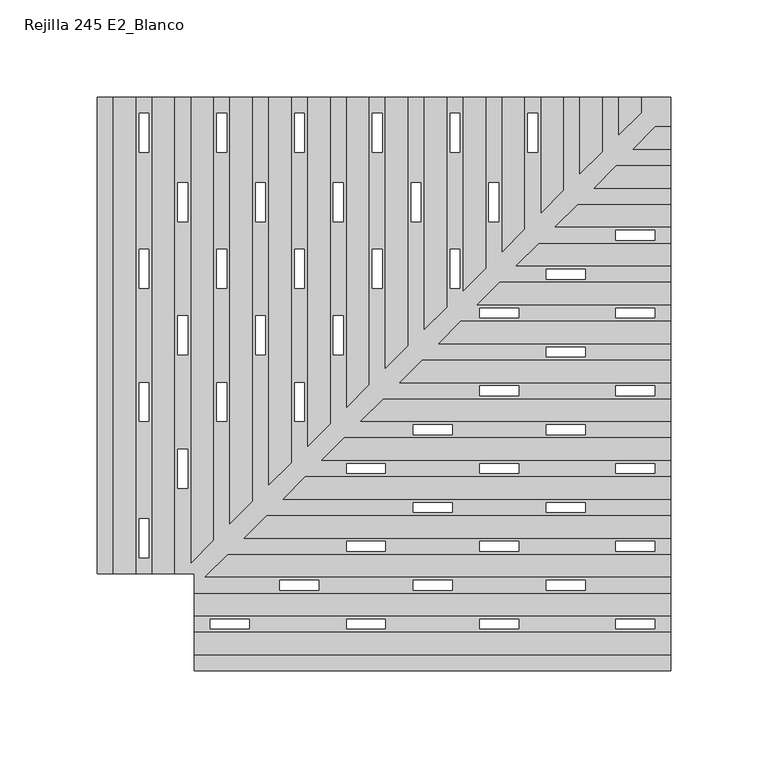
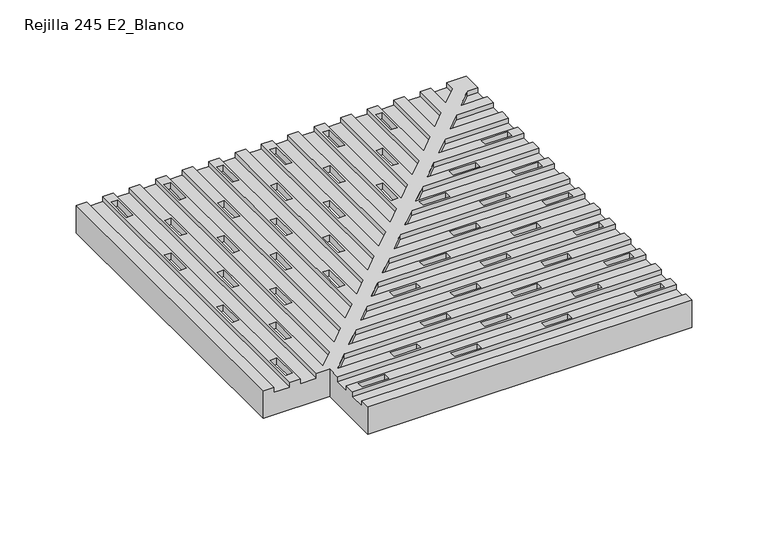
"""IFC4 building model written with IfcOpenShell, lengths in millimetres: proxy geometry, ROSA GRES_245 E2 : Rejilla 245 E2_Blanco."""

from ifc_helpers import new_model, si_unit, origin, place, context, project, spatial, faceted_brep, source, transform, mapped, element, save


def rejilla_245_e2_blanco_63b6c073(model_context):
    return source(origin(), model_context, "Body", "Brep", [
        faceted_brep([(0.0, -50.0, 228.35), (245.0, -50.0, 228.35), (245.0, -42.0, 228.35), (0.0, -42.0, 228.35), (-50.0, 245.0, 228.35), (-50.0, 0.0, 228.35), (-42.0, 0.0, 228.35), (-42.0, 245.0, 228.35), (-10.0, 0.0, 228.35), (0.0, 0.0, 228.35), (0.0, -10.0, 228.35), (245.0, -10.0, 228.35), (245.0, -2.0, 228.35), (5.0710678, -2.0, 228.35), (17.0710678, 10.0, 228.35), (245.0, 10.0, 228.35), (245.0, 18.0, 228.35), (25.0710678, 18.0, 228.35), (37.0710678, 30.0, 228.35), (245.0, 30.0, 228.35), (245.0, 38.0, 228.35), (45.0710678, 38.0, 228.35), (57.0710678, 50.0, 228.35), (245.0, 50.0, 228.35), (245.0, 58.0, 228.35), (65.0710678, 58.0, 228.35), (77.0710678, 70.0, 228.35), (245.0, 70.0, 228.35), (245.0, 78.0, 228.35), (85.0710678, 78.0, 228.35), (97.0710678, 90.0, 228.35), (245.0, 90.0, 228.35), (245.0, 98.0, 228.35), (105.0710678, 98.0, 228.35), (117.0710678, 110.0, 228.35), (245.0, 110.0, 228.35), (245.0, 118.0, 228.35), (125.0710678, 118.0, 228.35), (137.0710678, 130.0, 228.35), (245.0, 130.0, 228.35), (245.0, 138.0, 228.35), (145.0710678, 138.0, 228.35), (157.0710678, 150.0, 228.35), (245.0, 150.0, 228.35), (245.0, 158.0, 228.35), (165.0710678, 158.0, 228.35), (177.0710678, 170.0, 228.35), (245.0, 170.0, 228.35), (245.0, 178.0, 228.35), (185.0710678, 178.0, 228.35), (197.0710678, 190.0, 228.35), (245.0, 190.0, 228.35), (245.0, 198.0, 228.35), (205.0710678, 198.0, 228.35), (217.0710678, 210.0, 228.35), (245.0, 210.0, 228.35), (245.0, 218.0, 228.35), (225.0710678, 218.0, 228.35), (237.0710678, 230.0, 228.35), (245.0, 230.0, 228.35), (245.0, 245.0, 228.35), (230.0, 245.0, 228.35), (230.0, 237.0710678, 228.35), (218.0, 225.0710678, 228.35), (218.0, 245.0, 228.35), (210.0, 245.0, 228.35), (210.0, 217.0710678, 228.35), (198.0, 205.0710678, 228.35), (198.0, 245.0, 228.35), (190.0, 245.0, 228.35), (190.0, 197.0710678, 228.35), (178.0, 185.0710678, 228.35), (178.0, 245.0, 228.35), (170.0, 245.0, 228.35), (170.0, 177.0710678, 228.35), (158.0, 165.0710678, 228.35), (158.0, 245.0, 228.35), (150.0, 245.0, 228.35), (150.0, 157.0710678, 228.35), (138.0, 145.0710678, 228.35), (138.0, 245.0, 228.35), (130.0, 245.0, 228.35), (130.0, 137.0710678, 228.35), (118.0, 125.0710678, 228.35), (118.0, 245.0, 228.35), (110.0, 245.0, 228.35), (110.0, 117.0710678, 228.35), (98.0, 105.0710678, 228.35), (98.0, 245.0, 228.35), (90.0, 245.0, 228.35), (90.0, 97.0710678, 228.35), (78.0, 85.0710678, 228.35), (78.0, 245.0, 228.35), (70.0, 245.0, 228.35), (70.0, 77.0710678, 228.35), (58.0, 65.0710678, 228.35), (58.0, 245.0, 228.35), (50.0, 245.0, 228.35), (50.0, 57.0710678, 228.35), (38.0, 45.0710678, 228.35), (38.0, 245.0, 228.35), (30.0, 245.0, 228.35), (30.0, 37.0710678, 228.35), (18.0, 25.0710678, 228.35), (18.0, 245.0, 228.35), (10.0, 245.0, 228.35), (10.0, 17.0710678, 228.35), (-2.0, 5.0710678, 228.35), (-2.0, 245.0, 228.35), (-10.0, 245.0, 228.35), (216.7630657, 11.5, 228.35), (216.7630657, 16.5, 228.35), (236.7630657, 16.5, 228.35), (236.7630657, 11.5, 228.35), (216.7630657, 51.5, 228.35), (216.7630657, 56.5, 228.35), (236.7630657, 56.5, 228.35), (236.7630657, 51.5, 228.35), (216.7630657, 91.5, 228.35), (216.7630657, 96.5, 228.35), (236.7630657, 96.5, 228.35), (236.7630657, 91.5, 228.35), (216.7630657, 131.5, 228.35), (216.7630657, 136.5, 228.35), (236.7630657, 136.5, 228.35), (236.7630657, 131.5, 228.35), (216.7630657, 171.5, 228.35), (216.7630657, 176.5, 228.35), (236.7630657, 176.5, 228.35), (236.7630657, 171.5, 228.35), (181.052991, -8.5, 228.35), (181.052991, -3.5, 228.35), (201.052991, -3.5, 228.35), (201.052991, -8.5, 228.35), (181.052991, 31.5, 228.35), (181.052991, 36.5, 228.35), (201.052991, 36.5, 228.35), (201.052991, 31.5, 228.35), (181.052991, 71.5, 228.35), (181.052991, 76.5, 228.35), (201.052991, 76.5, 228.35), (201.052991, 71.5, 228.35), (181.052991, 111.5, 228.35), (181.052991, 116.5, 228.35), (201.052991, 116.5, 228.35), (201.052991, 111.5, 228.35), (181.052991, 151.5, 228.35), (181.052991, 156.5, 228.35), (201.052991, 156.5, 228.35), (201.052991, 151.5, 228.35), (146.7764955, 11.5, 228.35), (146.7764955, 16.5, 228.35), (166.7764955, 16.5, 228.35), (166.7764955, 11.5, 228.35), (146.7764955, 51.5, 228.35), (146.7764955, 56.5, 228.35), (166.7764955, 56.5, 228.35), (166.7764955, 51.5, 228.35), (146.7764955, 91.5, 228.35), (146.7764955, 96.5, 228.35), (166.7764955, 96.5, 228.35), (166.7764955, 91.5, 228.35), (146.7764955, 131.5, 228.35), (146.7764955, 136.5, 228.35), (166.7764955, 136.5, 228.35), (166.7764955, 131.5, 228.35), (112.5, -8.5, 228.35), (112.5, -3.5, 228.35), (132.5, -3.5, 228.35), (132.5, -8.5, 228.35), (112.5, 31.5, 228.35), (112.5, 36.5, 228.35), (132.5, 36.5, 228.35), (132.5, 31.5, 228.35), (112.5, 71.5, 228.35), (112.5, 76.5, 228.35), (132.5, 76.5, 228.35), (132.5, 71.5, 228.35), (78.2235045, 11.5, 228.35), (78.2235045, 16.5, 228.35), (98.2235045, 16.5, 228.35), (98.2235045, 11.5, 228.35), (78.2235045, 51.5, 228.35), (78.2235045, 56.5, 228.35), (98.2235045, 56.5, 228.35), (98.2235045, 51.5, 228.35), (43.947009, -8.5, 228.35), (43.947009, -3.5, 228.35), (63.947009, -3.5, 228.35), (63.947009, -8.5, 228.35), (16.5, 236.7630657, 228.35), (16.5, 216.7630657, 228.35), (11.5, 216.7630657, 228.35), (11.5, 236.7630657, 228.35), (56.5, 236.7630657, 228.35), (56.5, 216.7630657, 228.35), (51.5, 216.7630657, 228.35), (51.5, 236.7630657, 228.35), (96.5, 236.7630657, 228.35), (96.5, 216.7630657, 228.35), (91.5, 216.7630657, 228.35), (91.5, 236.7630657, 228.35), (136.5, 236.7630657, 228.35), (136.5, 216.7630657, 228.35), (131.5, 216.7630657, 228.35), (131.5, 236.7630657, 228.35), (176.5, 236.7630657, 228.35), (176.5, 216.7630657, 228.35), (171.5, 216.7630657, 228.35), (171.5, 236.7630657, 228.35), (-3.5, 201.052991, 228.35), (-3.5, 181.052991, 228.35), (-8.5, 181.052991, 228.35), (-8.5, 201.052991, 228.35), (36.5, 201.052991, 228.35), (36.5, 181.052991, 228.35), (31.5, 181.052991, 228.35), (31.5, 201.052991, 228.35), (76.5, 201.052991, 228.35), (76.5, 181.052991, 228.35), (71.5, 181.052991, 228.35), (71.5, 201.052991, 228.35), (116.5, 201.052991, 228.35), (116.5, 181.052991, 228.35), (111.5, 181.052991, 228.35), (111.5, 201.052991, 228.35), (156.5, 201.052991, 228.35), (156.5, 181.052991, 228.35), (151.5, 181.052991, 228.35), (151.5, 201.052991, 228.35), (16.5, 166.7764955, 228.35), (16.5, 146.7764955, 228.35), (11.5, 146.7764955, 228.35), (11.5, 166.7764955, 228.35), (56.5, 166.7764955, 228.35), (56.5, 146.7764955, 228.35), (51.5, 146.7764955, 228.35), (51.5, 166.7764955, 228.35), (96.5, 166.7764955, 228.35), (96.5, 146.7764955, 228.35), (91.5, 146.7764955, 228.35), (91.5, 166.7764955, 228.35), (136.5, 166.7764955, 228.35), (136.5, 146.7764955, 228.35), (131.5, 146.7764955, 228.35), (131.5, 166.7764955, 228.35), (-3.5, 132.5, 228.35), (-3.5, 112.5, 228.35), (-8.5, 112.5, 228.35), (-8.5, 132.5, 228.35), (36.5, 132.5, 228.35), (36.5, 112.5, 228.35), (31.5, 112.5, 228.35), (31.5, 132.5, 228.35), (76.5, 132.5, 228.35), (76.5, 112.5, 228.35), (71.5, 112.5, 228.35), (71.5, 132.5, 228.35), (16.5, 98.2235045, 228.35), (16.5, 78.2235045, 228.35), (11.5, 78.2235045, 228.35), (11.5, 98.2235045, 228.35), (56.5, 98.2235045, 228.35), (56.5, 78.2235045, 228.35), (51.5, 78.2235045, 228.35), (51.5, 98.2235045, 228.35), (-3.5, 63.947009, 228.35), (-3.5, 43.947009, 228.35), (-8.5, 43.947009, 228.35), (-8.5, 63.947009, 228.35), (-30.0, 0.0, 228.35), (-22.0, 0.0, 228.35), (-22.0, 245.0, 228.35), (-30.0, 245.0, 228.35), (-23.5, 236.7630657, 228.35), (-23.5, 216.7630657, 228.35), (-28.5, 216.7630657, 228.35), (-28.5, 236.7630657, 228.35), (-23.5, 166.7764955, 228.35), (-23.5, 146.7764955, 228.35), (-28.5, 146.7764955, 228.35), (-28.5, 166.7764955, 228.35), (-23.5, 98.2235045, 228.35), (-23.5, 78.2235045, 228.35), (-28.5, 78.2235045, 228.35), (-28.5, 98.2235045, 228.35), (-23.5, 28.2369343, 228.35), (-23.5, 8.2369343, 228.35), (-28.5, 8.2369343, 228.35), (-28.5, 28.2369343, 228.35), (0.0, -22.0, 228.35), (0.0, -30.0, 228.35), (245.0, -30.0, 228.35), (245.0, -22.0, 228.35), (216.7630657, -28.5, 228.35), (216.7630657, -23.5, 228.35), (236.7630657, -23.5, 228.35), (236.7630657, -28.5, 228.35), (146.7764955, -28.5, 228.35), (146.7764955, -23.5, 228.35), (166.7764955, -23.5, 228.35), (166.7764955, -28.5, 228.35), (78.2235045, -28.5, 228.35), (78.2235045, -23.5, 228.35), (98.2235045, -23.5, 228.35), (98.2235045, -28.5, 228.35), (8.2369343, -28.5, 228.35), (8.2369343, -23.5, 228.35), (28.2369343, -23.5, 228.35), (28.2369343, -28.5, 228.35), (-50.0, 0.0, 206.35), (-50.0, 245.0, 206.35), (245.0, 245.0, 206.35), (245.0, -50.0, 206.35), (0.0, -50.0, 206.35), (0.0, 0.0, 206.35), (-46.0, 241.0, 206.35), (-46.0, 4.0, 206.35), (4.0, 4.0, 206.35), (4.0, -46.0, 206.35), (241.0, -46.0, 206.35), (241.0, 241.0, 206.35), (-10.0, 0.0, 224.35), (-22.0, 0.0, 224.35), (-30.0, 0.0, 224.35), (-42.0, 0.0, 224.35), (0.0, -42.0, 224.35), (0.0, -30.0, 224.35), (0.0, -22.0, 224.35), (0.0, -10.0, 224.35), (245.0, 230.0, 224.35), (245.0, 218.0, 224.35), (245.0, 210.0, 224.35), (245.0, 198.0, 224.35), (245.0, 190.0, 224.35), (245.0, 178.0, 224.35), (245.0, 170.0, 224.35), (245.0, 158.0, 224.35), (245.0, 150.0, 224.35), (245.0, 138.0, 224.35), (245.0, 130.0, 224.35), (245.0, 118.0, 224.35), (245.0, 110.0, 224.35), (245.0, 98.0, 224.35), (245.0, 90.0, 224.35), (245.0, 78.0, 224.35), (245.0, 70.0, 224.35), (245.0, 58.0, 224.35), (245.0, 50.0, 224.35), (245.0, 38.0, 224.35), (245.0, 30.0, 224.35), (245.0, 18.0, 224.35), (245.0, 10.0, 224.35), (245.0, -2.0, 224.35), (245.0, -10.0, 224.35), (245.0, -22.0, 224.35), (245.0, -30.0, 224.35), (245.0, -42.0, 224.35), (-42.0, 245.0, 224.35), (-30.0, 245.0, 224.35), (-22.0, 245.0, 224.35), (-10.0, 245.0, 224.35), (-2.0, 245.0, 224.35), (10.0, 245.0, 224.35), (18.0, 245.0, 224.35), (30.0, 245.0, 224.35), (38.0, 245.0, 224.35), (50.0, 245.0, 224.35), (58.0, 245.0, 224.35), (70.0, 245.0, 224.35), (78.0, 245.0, 224.35), (90.0, 245.0, 224.35), (98.0, 245.0, 224.35), (110.0, 245.0, 224.35), (118.0, 245.0, 224.35), (130.0, 245.0, 224.35), (138.0, 245.0, 224.35), (150.0, 245.0, 224.35), (158.0, 245.0, 224.35), (170.0, 245.0, 224.35), (178.0, 245.0, 224.35), (190.0, 245.0, 224.35), (198.0, 245.0, 224.35), (210.0, 245.0, 224.35), (218.0, 245.0, 224.35), (230.0, 245.0, 224.35), (237.0710678, 230.0, 224.35), (225.0710678, 218.0, 224.35), (218.0, 225.0710678, 224.35), (230.0, 237.0710678, 224.35), (198.0, 205.0710678, 224.35), (210.0, 217.0710678, 224.35), (217.0710678, 210.0, 224.35), (205.0710678, 198.0, 224.35), (178.0, 185.0710678, 224.35), (190.0, 197.0710678, 224.35), (158.0, 165.0710678, 224.35), (170.0, 177.0710678, 224.35), (138.0, 145.0710678, 224.35), (150.0, 157.0710678, 224.35), (118.0, 125.0710678, 224.35), (130.0, 137.0710678, 224.35), (197.0710678, 190.0, 224.35), (185.0710678, 178.0, 224.35), (177.0710678, 170.0, 224.35), (165.0710678, 158.0, 224.35), (157.0710678, 150.0, 224.35), (145.0710678, 138.0, 224.35), (125.0710678, 118.0, 224.35), (137.0710678, 130.0, 224.35), (105.0710678, 98.0, 224.35), (117.0710678, 110.0, 224.35), (98.0, 105.0710678, 224.35), (110.0, 117.0710678, 224.35), (78.0, 85.0710678, 224.35), (90.0, 97.0710678, 224.35), (85.0710678, 78.0, 224.35), (97.0710678, 90.0, 224.35), (58.0, 65.0710678, 224.35), (70.0, 77.0710678, 224.35), (65.0710678, 58.0, 224.35), (77.0710678, 70.0, 224.35), (38.0, 45.0710678, 224.35), (50.0, 57.0710678, 224.35), (45.0710678, 38.0, 224.35), (57.0710678, 50.0, 224.35), (25.0710678, 18.0, 224.35), (37.0710678, 30.0, 224.35), (5.0710678, -2.0, 224.35), (17.0710678, 10.0, 224.35), (18.0, 25.0710678, 224.35), (30.0, 37.0710678, 224.35), (-2.0, 5.0710678, 224.35), (10.0, 17.0710678, 224.35), (216.7630657, -28.5, 223.35), (216.7630657, -23.5, 223.35), (236.7630657, -28.5, 223.35), (236.7630657, -23.5, 223.35), (216.7630657, 11.5, 223.35), (216.7630657, 16.5, 223.35), (236.7630657, 11.5, 223.35), (236.7630657, 16.5, 223.35), (216.7630657, 51.5, 223.35), (216.7630657, 56.5, 223.35), (236.7630657, 51.5, 223.35), (236.7630657, 56.5, 223.35), (216.7630657, 91.5, 223.35), (216.7630657, 96.5, 223.35), (236.7630657, 91.5, 223.35), (236.7630657, 96.5, 223.35), (216.7630657, 131.5, 223.35), (216.7630657, 136.5, 223.35), (236.7630657, 131.5, 223.35), (236.7630657, 136.5, 223.35), (216.7630657, 171.5, 223.35), (216.7630657, 176.5, 223.35), (236.7630657, 171.5, 223.35), (236.7630657, 176.5, 223.35), (181.052991, -8.5, 223.35), (181.052991, -3.5, 223.35), (201.052991, -8.5, 223.35), (201.052991, -3.5, 223.35), (181.052991, 31.5, 223.35), (181.052991, 36.5, 223.35), (201.052991, 31.5, 223.35), (201.052991, 36.5, 223.35), (181.052991, 71.5, 223.35), (181.052991, 76.5, 223.35), (201.052991, 71.5, 223.35), (201.052991, 76.5, 223.35), (181.052991, 111.5, 223.35), (181.052991, 116.5, 223.35), (201.052991, 111.5, 223.35), (201.052991, 116.5, 223.35), (181.052991, 151.5, 223.35), (181.052991, 156.5, 223.35), (201.052991, 151.5, 223.35), (201.052991, 156.5, 223.35), (146.7764955, -28.5, 223.35), (146.7764955, -23.5, 223.35), (166.7764955, -28.5, 223.35), (166.7764955, -23.5, 223.35), (146.7764955, 11.5, 223.35), (146.7764955, 16.5, 223.35), (166.7764955, 11.5, 223.35), (166.7764955, 16.5, 223.35), (146.7764955, 51.5, 223.35), (146.7764955, 56.5, 223.35), (166.7764955, 51.5, 223.35), (166.7764955, 56.5, 223.35), (146.7764955, 91.5, 223.35), (146.7764955, 96.5, 223.35), (166.7764955, 91.5, 223.35), (166.7764955, 96.5, 223.35), (146.7764955, 131.5, 223.35), (146.7764955, 136.5, 223.35), (166.7764955, 131.5, 223.35), (166.7764955, 136.5, 223.35), (112.5, -8.5, 223.35), (112.5, -3.5, 223.35), (132.5, -8.5, 223.35), (132.5, -3.5, 223.35), (112.5, 31.5, 223.35), (112.5, 36.5, 223.35), (132.5, 31.5, 223.35), (132.5, 36.5, 223.35), (112.5, 71.5, 223.35), (112.5, 76.5, 223.35), (132.5, 71.5, 223.35), (132.5, 76.5, 223.35), (78.2235045, -28.5, 223.35), (78.2235045, -23.5, 223.35), (98.2235045, -28.5, 223.35), (98.2235045, -23.5, 223.35), (78.2235045, 11.5, 223.35), (78.2235045, 16.5, 223.35), (98.2235045, 11.5, 223.35), (98.2235045, 16.5, 223.35), (78.2235045, 51.5, 223.35), (78.2235045, 56.5, 223.35), (98.2235045, 51.5, 223.35), (98.2235045, 56.5, 223.35), (43.947009, -8.5, 223.35), (43.947009, -3.5, 223.35), (63.947009, -8.5, 223.35), (63.947009, -3.5, 223.35), (8.2369343, -28.5, 223.35), (8.2369343, -23.5, 223.35), (28.2369343, -28.5, 223.35), (28.2369343, -23.5, 223.35), (-23.5, 236.7630657, 223.35), (-23.5, 216.7630657, 223.35), (-28.5, 236.7630657, 223.35), (-28.5, 216.7630657, 223.35), (16.5, 236.7630657, 223.35), (16.5, 216.7630657, 223.35), (11.5, 236.7630657, 223.35), (11.5, 216.7630657, 223.35), (56.5, 236.7630657, 223.35), (56.5, 216.7630657, 223.35), (51.5, 236.7630657, 223.35), (51.5, 216.7630657, 223.35), (96.5, 236.7630657, 223.35), (96.5, 216.7630657, 223.35), (91.5, 236.7630657, 223.35), (91.5, 216.7630657, 223.35), (136.5, 236.7630657, 223.35), (136.5, 216.7630657, 223.35), (131.5, 236.7630657, 223.35), (131.5, 216.7630657, 223.35), (176.5, 236.7630657, 223.35), (176.5, 216.7630657, 223.35), (171.5, 236.7630657, 223.35), (171.5, 216.7630657, 223.35), (-3.5, 201.052991, 223.35), (-3.5, 181.052991, 223.35), (-8.5, 201.052991, 223.35), (-8.5, 181.052991, 223.35), (36.5, 201.052991, 223.35), (36.5, 181.052991, 223.35), (31.5, 201.052991, 223.35), (31.5, 181.052991, 223.35), (76.5, 201.052991, 223.35), (76.5, 181.052991, 223.35), (71.5, 201.052991, 223.35), (71.5, 181.052991, 223.35), (116.5, 201.052991, 223.35), (116.5, 181.052991, 223.35), (111.5, 201.052991, 223.35), (111.5, 181.052991, 223.35), (156.5, 201.052991, 223.35), (156.5, 181.052991, 223.35), (151.5, 201.052991, 223.35), (151.5, 181.052991, 223.35), (-23.5, 166.7764955, 223.35), (-23.5, 146.7764955, 223.35), (-28.5, 166.7764955, 223.35), (-28.5, 146.7764955, 223.35), (16.5, 166.7764955, 223.35), (16.5, 146.7764955, 223.35), (11.5, 166.7764955, 223.35), (11.5, 146.7764955, 223.35), (56.5, 166.7764955, 223.35), (56.5, 146.7764955, 223.35), (51.5, 166.7764955, 223.35), (51.5, 146.7764955, 223.35), (96.5, 166.7764955, 223.35), (96.5, 146.7764955, 223.35), (91.5, 166.7764955, 223.35), (91.5, 146.7764955, 223.35), (136.5, 166.7764955, 223.35), (136.5, 146.7764955, 223.35), (131.5, 166.7764955, 223.35), (131.5, 146.7764955, 223.35), (-3.5, 132.5, 223.35), (-3.5, 112.5, 223.35), (-8.5, 132.5, 223.35), (-8.5, 112.5, 223.35), (36.5, 132.5, 223.35), (36.5, 112.5, 223.35), (31.5, 132.5, 223.35), (31.5, 112.5, 223.35), (76.5, 132.5, 223.35), (76.5, 112.5, 223.35), (71.5, 132.5, 223.35), (71.5, 112.5, 223.35), (-23.5, 98.2235045, 223.35), (-23.5, 78.2235045, 223.35), (-28.5, 98.2235045, 223.35), (-28.5, 78.2235045, 223.35), (16.5, 98.2235045, 223.35), (16.5, 78.2235045, 223.35), (11.5, 98.2235045, 223.35), (11.5, 78.2235045, 223.35), (56.5, 98.2235045, 223.35), (56.5, 78.2235045, 223.35), (51.5, 98.2235045, 223.35), (51.5, 78.2235045, 223.35), (-3.5, 63.947009, 223.35), (-3.5, 43.947009, 223.35), (-8.5, 63.947009, 223.35), (-8.5, 43.947009, 223.35), (-23.5, 28.2369343, 223.35), (-23.5, 8.2369343, 223.35), (-28.5, 28.2369343, 223.35), (-28.5, 8.2369343, 223.35), (-46.0, 241.0, 223.35), (241.0, 241.0, 223.35), (241.0, -46.0, 223.35), (4.0, -46.0, 223.35), (4.0, 4.0, 223.35), (-46.0, 4.0, 223.35)], [[[0, 1, 2, 3]], [[4, 5, 6, 7]], [[8, 9, 10, 11, 12, 13, 14, 15, 16, 17, 18, 19, 20, 21, 22, 23, 24, 25, 26, 27, 28, 29, 30, 31, 32, 33, 34, 35, 36, 37, 38, 39, 40, 41, 42, 43, 44, 45, 46, 47, 48, 49, 50, 51, 52, 53, 54, 55, 56, 57, 58, 59, 60, 61, 62, 63, 64, 65, 66, 67, 68, 69, 70, 71, 72, 73, 74, 75, 76, 77, 78, 79, 80, 81, 82, 83, 84, 85, 86, 87, 88, 89, 90, 91, 92, 93, 94, 95, 96, 97, 98, 99, 100, 101, 102, 103, 104, 105, 106, 107, 108, 109], [110, 111, 112, 113], [114, 115, 116, 117], [118, 119, 120, 121], [122, 123, 124, 125], [126, 127, 128, 129], [130, 131, 132, 133], [134, 135, 136, 137], [138, 139, 140, 141], [142, 143, 144, 145], [146, 147, 148, 149], [150, 151, 152, 153], [154, 155, 156, 157], [158, 159, 160, 161], [162, 163, 164, 165], [166, 167, 168, 169], [170, 171, 172, 173], [174, 175, 176, 177], [178, 179, 180, 181], [182, 183, 184, 185], [186, 187, 188, 189], [190, 191, 192, 193], [194, 195, 196, 197], [198, 199, 200, 201], [202, 203, 204, 205], [206, 207, 208, 209], [210, 211, 212, 213], [214, 215, 216, 217], [218, 219, 220, 221], [222, 223, 224, 225], [226, 227, 228, 229], [230, 231, 232, 233], [234, 235, 236, 237], [238, 239, 240, 241], [242, 243, 244, 245], [246, 247, 248, 249], [250, 251, 252, 253], [254, 255, 256, 257], [258, 259, 260, 261], [262, 263, 264, 265], [266, 267, 268, 269]], [[270, 271, 272, 273], [274, 275, 276, 277], [278, 279, 280, 281], [282, 283, 284, 285], [286, 287, 288, 289]], [[290, 291, 292, 293], [294, 295, 296, 297], [298, 299, 300, 301], [302, 303, 304, 305], [306, 307, 308, 309]], [[310, 311, 312, 313, 314, 315], [316, 317, 318, 319, 320, 321]], [[310, 315, 9, 8, 322, 323, 271, 270, 324, 325, 6, 5]], [[315, 314, 0, 3, 326, 327, 291, 290, 328, 329, 10, 9]], [[1, 0, 314, 313]], [[313, 312, 60, 59, 330, 331, 56, 55, 332, 333, 52, 51, 334, 335, 48, 47, 336, 337, 44, 43, 338, 339, 40, 39, 340, 341, 36, 35, 342, 343, 32, 31, 344, 345, 28, 27, 346, 347, 24, 23, 348, 349, 20, 19, 350, 351, 16, 15, 352, 353, 12, 11, 354, 355, 293, 292, 356, 357, 2, 1]], [[312, 311, 4, 7, 358, 359, 273, 272, 360, 361, 109, 108, 362, 363, 105, 104, 364, 365, 101, 100, 366, 367, 97, 96, 368, 369, 93, 92, 370, 371, 89, 88, 372, 373, 85, 84, 374, 375, 81, 80, 376, 377, 77, 76, 378, 379, 73, 72, 380, 381, 69, 68, 382, 383, 65, 64, 384, 385, 61, 60]], [[5, 4, 311, 310]], [[330, 386, 387, 331]], [[384, 388, 389, 385]], [[382, 390, 391, 383]], [[392, 393, 333, 332]], [[380, 394, 395, 381]], [[378, 396, 397, 379]], [[376, 398, 399, 377]], [[374, 400, 401, 375]], [[334, 402, 403, 335]], [[336, 404, 405, 337]], [[338, 406, 407, 339]], [[408, 341, 340, 409]], [[410, 343, 342, 411]], [[412, 413, 373, 372]], [[414, 415, 371, 370]], [[416, 345, 344, 417]], [[418, 419, 369, 368]], [[420, 347, 346, 421]], [[422, 423, 367, 366]], [[424, 349, 348, 425]], [[426, 351, 350, 427]], [[428, 353, 352, 429]], [[430, 431, 365, 364]], [[432, 433, 363, 362]], [[354, 329, 328, 355]], [[356, 327, 326, 357]], [[360, 323, 322, 361]], [[358, 325, 324, 359]], [[386, 330, 59, 58]], [[387, 386, 58, 57]], [[331, 387, 57, 56]], [[388, 384, 64, 63]], [[389, 388, 63, 62]], [[385, 389, 62, 61]], [[390, 382, 68, 67]], [[391, 390, 67, 66]], [[383, 391, 66, 65]], [[393, 392, 54, 53]], [[333, 393, 53, 52]], [[392, 332, 55, 54]], [[394, 380, 72, 71]], [[395, 394, 71, 70]], [[381, 395, 70, 69]], [[396, 378, 76, 75]], [[397, 396, 75, 74]], [[379, 397, 74, 73]], [[398, 376, 80, 79]], [[399, 398, 79, 78]], [[377, 399, 78, 77]], [[400, 374, 84, 83]], [[401, 400, 83, 82]], [[375, 401, 82, 81]], [[402, 334, 51, 50]], [[403, 402, 50, 49]], [[335, 403, 49, 48]], [[404, 336, 47, 46]], [[405, 404, 46, 45]], [[337, 405, 45, 44]], [[406, 338, 43, 42]], [[407, 406, 42, 41]], [[339, 407, 41, 40]], [[341, 408, 37, 36]], [[409, 340, 39, 38]], [[408, 409, 38, 37]], [[343, 410, 33, 32]], [[411, 342, 35, 34]], [[410, 411, 34, 33]], [[413, 412, 87, 86]], [[373, 413, 86, 85]], [[412, 372, 88, 87]], [[415, 414, 91, 90]], [[371, 415, 90, 89]], [[414, 370, 92, 91]], [[345, 416, 29, 28]], [[417, 344, 31, 30]], [[416, 417, 30, 29]], [[419, 418, 95, 94]], [[369, 419, 94, 93]], [[418, 368, 96, 95]], [[347, 420, 25, 24]], [[421, 346, 27, 26]], [[420, 421, 26, 25]], [[423, 422, 99, 98]], [[367, 423, 98, 97]], [[422, 366, 100, 99]], [[349, 424, 21, 20]], [[425, 348, 23, 22]], [[424, 425, 22, 21]], [[351, 426, 17, 16]], [[427, 350, 19, 18]], [[426, 427, 18, 17]], [[353, 428, 13, 12]], [[429, 352, 15, 14]], [[428, 429, 14, 13]], [[431, 430, 103, 102]], [[365, 431, 102, 101]], [[430, 364, 104, 103]], [[433, 432, 107, 106]], [[363, 433, 106, 105]], [[432, 362, 108, 107]], [[329, 354, 11, 10]], [[355, 328, 290, 293]], [[327, 356, 292, 291]], [[357, 326, 3, 2]], [[323, 360, 272, 271]], [[361, 322, 8, 109]], [[325, 358, 7, 6]], [[359, 324, 270, 273]], [[295, 294, 434, 435]], [[294, 297, 436, 434]], [[297, 296, 437, 436]], [[296, 295, 435, 437]], [[111, 110, 438, 439]], [[110, 113, 440, 438]], [[113, 112, 441, 440]], [[112, 111, 439, 441]], [[115, 114, 442, 443]], [[114, 117, 444, 442]], [[117, 116, 445, 444]], [[116, 115, 443, 445]], [[119, 118, 446, 447]], [[118, 121, 448, 446]], [[121, 120, 449, 448]], [[120, 119, 447, 449]], [[123, 122, 450, 451]], [[122, 125, 452, 450]], [[125, 124, 453, 452]], [[124, 123, 451, 453]], [[127, 126, 454, 455]], [[126, 129, 456, 454]], [[129, 128, 457, 456]], [[128, 127, 455, 457]], [[131, 130, 458, 459]], [[130, 133, 460, 458]], [[133, 132, 461, 460]], [[132, 131, 459, 461]], [[135, 134, 462, 463]], [[134, 137, 464, 462]], [[137, 136, 465, 464]], [[136, 135, 463, 465]], [[139, 138, 466, 467]], [[138, 141, 468, 466]], [[141, 140, 469, 468]], [[140, 139, 467, 469]], [[143, 142, 470, 471]], [[142, 145, 472, 470]], [[145, 144, 473, 472]], [[144, 143, 471, 473]], [[147, 146, 474, 475]], [[146, 149, 476, 474]], [[149, 148, 477, 476]], [[148, 147, 475, 477]], [[299, 298, 478, 479]], [[298, 301, 480, 478]], [[301, 300, 481, 480]], [[300, 299, 479, 481]], [[151, 150, 482, 483]], [[150, 153, 484, 482]], [[153, 152, 485, 484]], [[152, 151, 483, 485]], [[155, 154, 486, 487]], [[154, 157, 488, 486]], [[157, 156, 489, 488]], [[156, 155, 487, 489]], [[159, 158, 490, 491]], [[158, 161, 492, 490]], [[161, 160, 493, 492]], [[160, 159, 491, 493]], [[163, 162, 494, 495]], [[162, 165, 496, 494]], [[165, 164, 497, 496]], [[164, 163, 495, 497]], [[167, 166, 498, 499]], [[166, 169, 500, 498]], [[169, 168, 501, 500]], [[168, 167, 499, 501]], [[171, 170, 502, 503]], [[170, 173, 504, 502]], [[173, 172, 505, 504]], [[172, 171, 503, 505]], [[175, 174, 506, 507]], [[174, 177, 508, 506]], [[177, 176, 509, 508]], [[176, 175, 507, 509]], [[303, 302, 510, 511]], [[302, 305, 512, 510]], [[305, 304, 513, 512]], [[304, 303, 511, 513]], [[179, 178, 514, 515]], [[178, 181, 516, 514]], [[181, 180, 517, 516]], [[180, 179, 515, 517]], [[183, 182, 518, 519]], [[182, 185, 520, 518]], [[185, 184, 521, 520]], [[184, 183, 519, 521]], [[187, 186, 522, 523]], [[186, 189, 524, 522]], [[189, 188, 525, 524]], [[188, 187, 523, 525]], [[307, 306, 526, 527]], [[306, 309, 528, 526]], [[309, 308, 529, 528]], [[308, 307, 527, 529]], [[275, 274, 530, 531]], [[274, 277, 532, 530]], [[277, 276, 533, 532]], [[276, 275, 531, 533]], [[191, 190, 534, 535]], [[190, 193, 536, 534]], [[193, 192, 537, 536]], [[192, 191, 535, 537]], [[195, 194, 538, 539]], [[194, 197, 540, 538]], [[197, 196, 541, 540]], [[196, 195, 539, 541]], [[199, 198, 542, 543]], [[198, 201, 544, 542]], [[201, 200, 545, 544]], [[200, 199, 543, 545]], [[203, 202, 546, 547]], [[202, 205, 548, 546]], [[205, 204, 549, 548]], [[204, 203, 547, 549]], [[207, 206, 550, 551]], [[206, 209, 552, 550]], [[209, 208, 553, 552]], [[208, 207, 551, 553]], [[211, 210, 554, 555]], [[210, 213, 556, 554]], [[213, 212, 557, 556]], [[212, 211, 555, 557]], [[215, 214, 558, 559]], [[214, 217, 560, 558]], [[217, 216, 561, 560]], [[216, 215, 559, 561]], [[219, 218, 562, 563]], [[218, 221, 564, 562]], [[221, 220, 565, 564]], [[220, 219, 563, 565]], [[223, 222, 566, 567]], [[222, 225, 568, 566]], [[225, 224, 569, 568]], [[224, 223, 567, 569]], [[227, 226, 570, 571]], [[226, 229, 572, 570]], [[229, 228, 573, 572]], [[228, 227, 571, 573]], [[279, 278, 574, 575]], [[278, 281, 576, 574]], [[281, 280, 577, 576]], [[280, 279, 575, 577]], [[231, 230, 578, 579]], [[230, 233, 580, 578]], [[233, 232, 581, 580]], [[232, 231, 579, 581]], [[235, 234, 582, 583]], [[234, 237, 584, 582]], [[237, 236, 585, 584]], [[236, 235, 583, 585]], [[239, 238, 586, 587]], [[238, 241, 588, 586]], [[241, 240, 589, 588]], [[240, 239, 587, 589]], [[243, 242, 590, 591]], [[242, 245, 592, 590]], [[245, 244, 593, 592]], [[244, 243, 591, 593]], [[247, 246, 594, 595]], [[246, 249, 596, 594]], [[249, 248, 597, 596]], [[248, 247, 595, 597]], [[251, 250, 598, 599]], [[250, 253, 600, 598]], [[253, 252, 601, 600]], [[252, 251, 599, 601]], [[255, 254, 602, 603]], [[254, 257, 604, 602]], [[257, 256, 605, 604]], [[256, 255, 603, 605]], [[283, 282, 606, 607]], [[282, 285, 608, 606]], [[285, 284, 609, 608]], [[284, 283, 607, 609]], [[259, 258, 610, 611]], [[258, 261, 612, 610]], [[261, 260, 613, 612]], [[260, 259, 611, 613]], [[263, 262, 614, 615]], [[262, 265, 616, 614]], [[265, 264, 617, 616]], [[264, 263, 615, 617]], [[267, 266, 618, 619]], [[266, 269, 620, 618]], [[269, 268, 621, 620]], [[268, 267, 619, 621]], [[287, 286, 622, 623]], [[286, 289, 624, 622]], [[289, 288, 625, 624]], [[288, 287, 623, 625]], [[626, 627, 628, 629, 630, 631], [435, 434, 436, 437], [439, 438, 440, 441], [443, 442, 444, 445], [447, 446, 448, 449], [451, 450, 452, 453], [455, 454, 456, 457], [459, 458, 460, 461], [463, 462, 464, 465], [467, 466, 468, 469], [471, 470, 472, 473], [475, 474, 476, 477], [479, 478, 480, 481], [483, 482, 484, 485], [487, 486, 488, 489], [491, 490, 492, 493], [495, 494, 496, 497], [499, 498, 500, 501], [503, 502, 504, 505], [507, 506, 508, 509], [511, 510, 512, 513], [515, 514, 516, 517], [519, 518, 520, 521], [523, 522, 524, 525], [527, 526, 528, 529], [531, 530, 532, 533], [535, 534, 536, 537], [539, 538, 540, 541], [543, 542, 544, 545], [547, 546, 548, 549], [551, 550, 552, 553], [555, 554, 556, 557], [559, 558, 560, 561], [563, 562, 564, 565], [567, 566, 568, 569], [571, 570, 572, 573], [575, 574, 576, 577], [579, 578, 580, 581], [583, 582, 584, 585], [587, 586, 588, 589], [591, 590, 592, 593], [595, 594, 596, 597], [599, 598, 600, 601], [603, 602, 604, 605], [607, 606, 608, 609], [611, 610, 612, 613], [615, 614, 616, 617], [619, 618, 620, 621], [623, 622, 624, 625]], [[626, 631, 317, 316]], [[631, 630, 318, 317]], [[630, 629, 319, 318]], [[629, 628, 320, 319]], [[628, 627, 321, 320]], [[627, 626, 316, 321]]]),
    ])


if __name__ == "__main__":
    model = new_model("IFC4")
    model_context = context("Model", 3, world=origin())
    ifc_project = project(units=[si_unit("LENGTHUNIT", "METRE", prefix="MILLI")], contexts=[model_context])
    site = spatial("IfcSite", under=ifc_project)
    building = spatial("IfcBuilding", under=site)
    placement = place(None, origin())
    rejilla_245_e2_blanco_shape = rejilla_245_e2_blanco_63b6c073(model_context)
    element("IfcBuildingElementProxy", 1, Name="ROSA GRES_245 E2 : Rejilla 245 E2_Blanco", ObjectType="ROSA GRES_245 E2 : Rejilla 245 E2_Blanco", at=placement, inside=building, context=model_context, shape_type="MappedRepresentation", body=[
        mapped(rejilla_245_e2_blanco_shape, transform((0.0, 0.0, 0.0), x_axis=(1.0, 0.0, 0.0), y_axis=(0.0, 1.0, 0.0), z_axis=(0.0, 0.0, 1.0))),
    ])
    save(model, "model.ifc")
